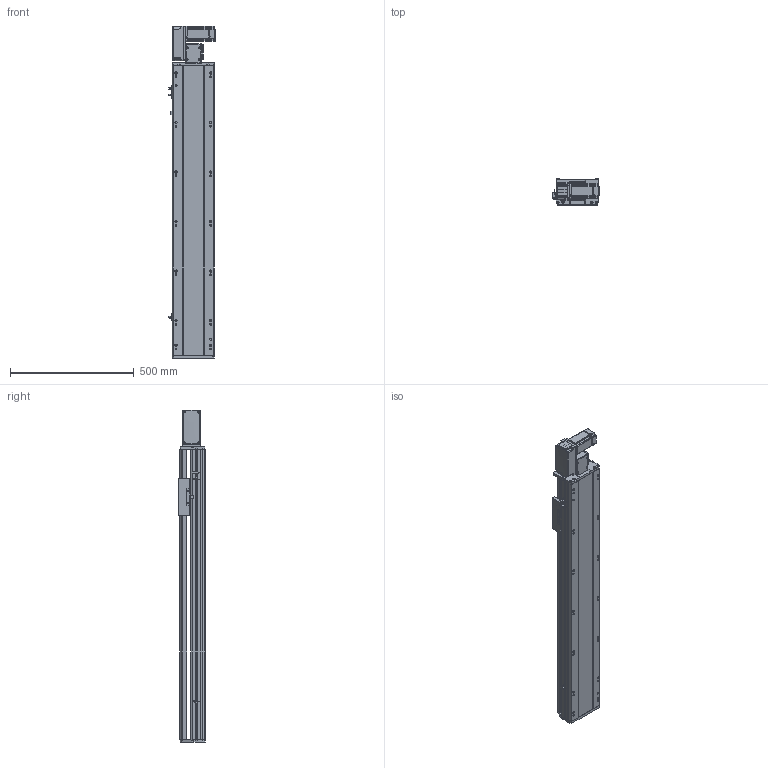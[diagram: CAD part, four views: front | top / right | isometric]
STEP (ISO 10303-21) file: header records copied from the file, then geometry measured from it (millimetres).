
FILE_DESCRIPTION (( 'STEP AP214' ), '1' );
FILE_NAME ('RTB17S-XX-900-L-M40-C4.STEP', '2025-12-11T05:33:43', ( '' ), ( '' ), 'SwSTEP 2.0', 'SolidWorks 2018', '' );
FILE_SCHEMA (( 'AUTOMOTIVE_DESIGN' ));
Length unit declared in the file: millimetre
Products named in the file (14): RTB17S-L-004丝杆螺母连接座^RTB17S-XX-XX-L-M40-C4（方程式）; RTB17S-L-皮带座装配-400W^RTB17S-XX-XX-L-M40-C4（方程式）; RTB17S-L-007上盖^RTB17S-XX-XX-L-M40-C4（方程式）; RTB14-L-008-M20--电机板^RTB17S-L-皮带座装配-400W_RTB17S-XX-XX-L-M40-C4（方程式）; RTH13-BL-012感应片外置^RTB17S-XX-XX-L-M40-C4（方程式）; RTB17S-L-001侧面板^RTB17S-XX-XX-L-M40-C4（方程式）; RTB14-L-005P--轴承塑胶压盖^RTB17S-L-皮带座装配-400W_RTB17S-XX-XX-L-M40-C4（方程式）; OMRON EE-SX672 传感器^RTB17S-XX-XX-L-M40-C4（方程式）; RMP17S-L-014-T20--皮带座^RTB17S-L-皮带座装配-400W_RTB17S-XX-XX-L-M40-C4（方程式）; RTB14-L-017P^RTB17S-L-皮带座装配-400W_RTB17S-XX-XX-L-M40-C4（方程式）; RTB17-R-011底座^RTB17S-XX-XX-L-M40-C4（方程式）; RTB17S-XX-900-L-M40-C4; 400W伺服电机^RTB17S-XX-XX-L-M40-C4（方程式）; RTB14-L-018P^RTB17S-L-皮带座装配-400W_RTB17S-XX-XX-L-M40-C4（方程式）
Assembly tree (16 placements, depth 3):
  RTB17S-XX-900-L-M40-C4
    RTB17-R-011底座^RTB17S-XX-XX-L-M40-C4（方程式）
    RTB17S-L-007上盖^RTB17S-XX-XX-L-M40-C4（方程式）
    OMRON EE-SX672 传感器^RTB17S-XX-XX-L-M40-C4（方程式）  x3
    RTB17S-L-001侧面板^RTB17S-XX-XX-L-M40-C4（方程式）
    400W伺服电机^RTB17S-XX-XX-L-M40-C4（方程式）
    RTB17S-L-004丝杆螺母连接座^RTB17S-XX-XX-L-M40-C4（方程式）
    RTH13-BL-012感应片外置^RTB17S-XX-XX-L-M40-C4（方程式）
    RTB17S-L-皮带座装配-400W^RTB17S-XX-XX-L-M40-C4（方程式）
      RMP17S-L-014-T20--皮带座^RTB17S-L-皮带座装配-400W_RTB17S-XX-XX-L-M40-C4（方程式）
      RTB14-L-005P--轴承塑胶压盖^RTB17S-L-皮带座装配-400W_RTB17S-XX-XX-L-M40-C4（方程式）
      RTB14-L-008-M20--电机板^RTB17S-L-皮带座装配-400W_RTB17S-XX-XX-L-M40-C4（方程式）
      RTB14-L-017P^RTB17S-L-皮带座装配-400W_RTB17S-XX-XX-L-M40-C4（方程式）  x2
      RTB14-L-018P^RTB17S-L-皮带座装配-400W_RTB17S-XX-XX-L-M40-C4（方程式）
Bounding box: 186 x 108 x 1341 mm (x, y, z)
Volume: 11556255 mm3; surface area: 1410035 mm2
Topology: 15 solids, 15 shells, 2205 faces, 6087 edges, 3969 vertices
Faces by surface type: plane 1068, cylinder 689, bspline 301, cone 139, torus 8
Entity records: 62633 total; most frequent: CARTESIAN_POINT 17492, ORIENTED_EDGE 9018, DIRECTION 8396, EDGE_CURVE 4509, VERTEX_POINT 2957, AXIS2_PLACEMENT_3D 2887, LINE 2622, VECTOR 2622
